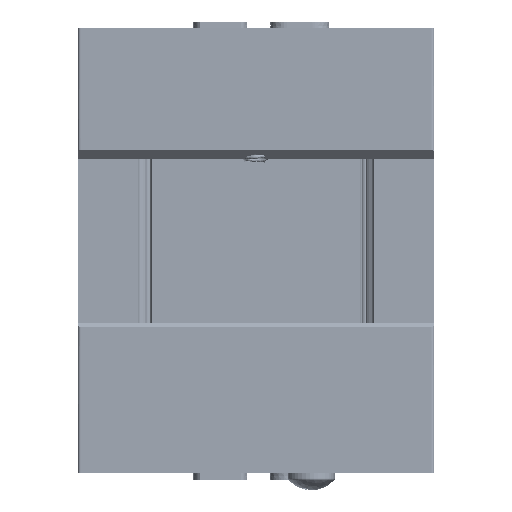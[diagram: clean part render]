
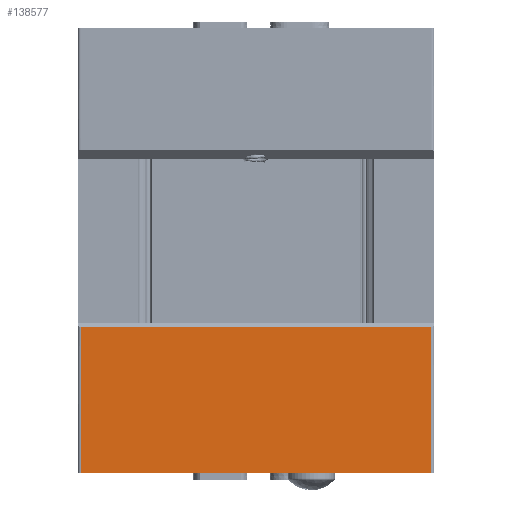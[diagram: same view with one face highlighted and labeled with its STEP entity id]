
A CAD part, front view. The second image highlights one B-rep face of the part: STEP entity #138577.
In plain terms, the highlighted planar face has unit normal (0, -1, 0).
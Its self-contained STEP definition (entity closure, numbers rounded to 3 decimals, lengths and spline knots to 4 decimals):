
#14636=FACE_OUTER_BOUND('',#22190,.T.);
#22190=EDGE_LOOP('',(#123781,#123782,#123783,#123784));
#37900=LINE('',#239749,#53618);
#38017=LINE('',#240543,#53735);
#38028=LINE('',#240573,#53746);
#38036=LINE('',#240587,#53754);
#53618=VECTOR('',#183079,0.3937);
#53735=VECTOR('',#183810,0.3937);
#53746=VECTOR('',#183843,0.3937);
#53754=VECTOR('',#183857,0.3937);
#66386=VERTEX_POINT('',#239746);
#66387=VERTEX_POINT('',#239748);
#66756=VERTEX_POINT('',#240540);
#66757=VERTEX_POINT('',#240542);
#85549=EDGE_CURVE('',#66386,#66387,#37900,.T.);
#85945=EDGE_CURVE('',#66757,#66756,#38017,.T.);
#85962=EDGE_CURVE('',#66757,#66386,#38028,.T.);
#85970=EDGE_CURVE('',#66387,#66756,#38036,.T.);
#123781=ORIENTED_EDGE('',*,*,#85945,.T.);
#123782=ORIENTED_EDGE('',*,*,#85970,.F.);
#123783=ORIENTED_EDGE('',*,*,#85549,.F.);
#123784=ORIENTED_EDGE('',*,*,#85962,.F.);
#131915=PLANE('',#149099);
#138577=ADVANCED_FACE('',(#14636),#131915,.T.);
#149099=AXIS2_PLACEMENT_3D('',#240586,#183855,#183856);
#183079=DIRECTION('',(1.,0.,0.));
#183810=DIRECTION('',(1.,0.,0.));
#183843=DIRECTION('',(0.,0.,1.));
#183855=DIRECTION('center_axis',(0.,-1.,0.));
#183856=DIRECTION('ref_axis',(1.,0.,0.));
#183857=DIRECTION('',(0.,0.,-1.));
#239746=CARTESIAN_POINT('',(0.02,0.,3.5));
#239748=CARTESIAN_POINT('',(2.78,0.,3.5));
#239749=CARTESIAN_POINT('',(0.,0.,3.5));
#240540=CARTESIAN_POINT('',(2.78,0.,2.351));
#240542=CARTESIAN_POINT('',(0.02,0.,2.351));
#240543=CARTESIAN_POINT('',(0.,0.,2.351));
#240573=CARTESIAN_POINT('',(0.02,0.,0.));
#240586=CARTESIAN_POINT('Origin',(0.,0.,0.));
#240587=CARTESIAN_POINT('',(2.78,0.,0.));
